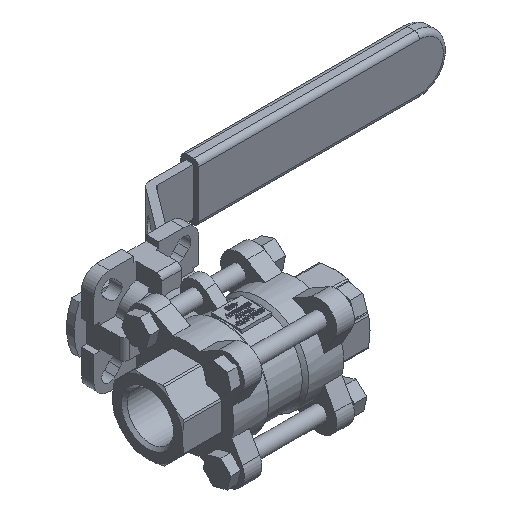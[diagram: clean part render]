
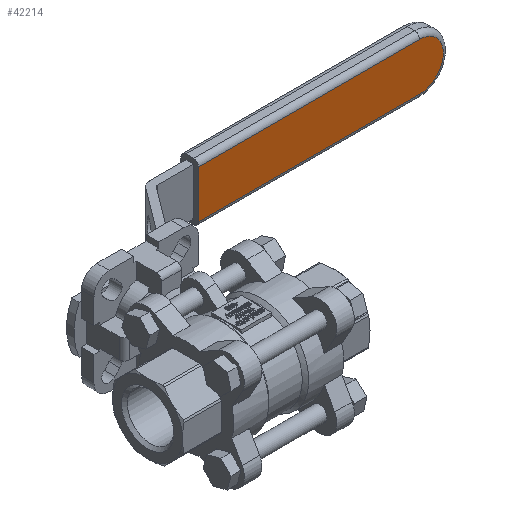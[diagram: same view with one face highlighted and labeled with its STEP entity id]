
A CAD part, isometric view. The second image highlights one B-rep face of the part: STEP entity #42214.
In plain terms, the highlighted planar face has unit normal (0, -1, 0).
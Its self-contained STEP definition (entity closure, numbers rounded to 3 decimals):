
#42097=CARTESIAN_POINT('',(50.335,67.5,9.5));
#42098=VERTEX_POINT('',#42097);
#42106=CARTESIAN_POINT('',(138.835,67.5,9.5));
#42107=VERTEX_POINT('',#42106);
#42108=CARTESIAN_POINT('',(50.335,67.5,9.5));
#42109=DIRECTION('',(1.0,0.0,0.0));
#42110=VECTOR('',#42109,88.5);
#42111=LINE('',#42108,#42110);
#42112=EDGE_CURVE('',#42098,#42107,#42111,.T.);
#42137=CARTESIAN_POINT('',(138.835,67.5,-9.5));
#42138=VERTEX_POINT('',#42137);
#42156=CARTESIAN_POINT('',(138.835,67.5,0.));
#42157=DIRECTION('',(0.0,1.0,0.0));
#42158=DIRECTION('',(1.0,0.0,0.0));
#42159=AXIS2_PLACEMENT_3D('',#42156,#42157,#42158);
#42160=CIRCLE('',#42159,9.5);
#42161=EDGE_CURVE('',#42107,#42138,#42160,.T.);
#42171=CARTESIAN_POINT('',(50.335,67.5,-9.5));
#42172=VERTEX_POINT('',#42171);
#42189=CARTESIAN_POINT('',(138.835,67.5,-9.5));
#42190=DIRECTION('',(-1.0,0.0,0.0));
#42191=VECTOR('',#42190,88.5);
#42192=LINE('',#42189,#42191);
#42193=EDGE_CURVE('',#42138,#42172,#42192,.T.);
#42198=CARTESIAN_POINT('',(50.335,67.5,-11.5));
#42199=DIRECTION('',(0.0,-1.0,0.0));
#42200=DIRECTION('',(0.0,0.0,-1.0));
#42201=AXIS2_PLACEMENT_3D('',#42198,#42199,#42200);
#42202=PLANE('',#42201);
#42203=ORIENTED_EDGE('',*,*,#42193,.F.);
#42204=ORIENTED_EDGE('',*,*,#42161,.F.);
#42205=ORIENTED_EDGE('',*,*,#42112,.F.);
#42206=CARTESIAN_POINT('',(50.335,67.5,-9.5));
#42207=DIRECTION('',(0.0,0.0,1.0));
#42208=VECTOR('',#42207,19.0);
#42209=LINE('',#42206,#42208);
#42210=EDGE_CURVE('',#42172,#42098,#42209,.T.);
#42211=ORIENTED_EDGE('',*,*,#42210,.F.);
#42212=EDGE_LOOP('',(#42203,#42204,#42205,#42211));
#42213=FACE_OUTER_BOUND('',#42212,.T.);
#42214=ADVANCED_FACE('',(#42213),#42202,.T.);
